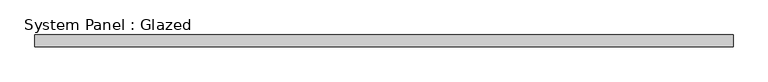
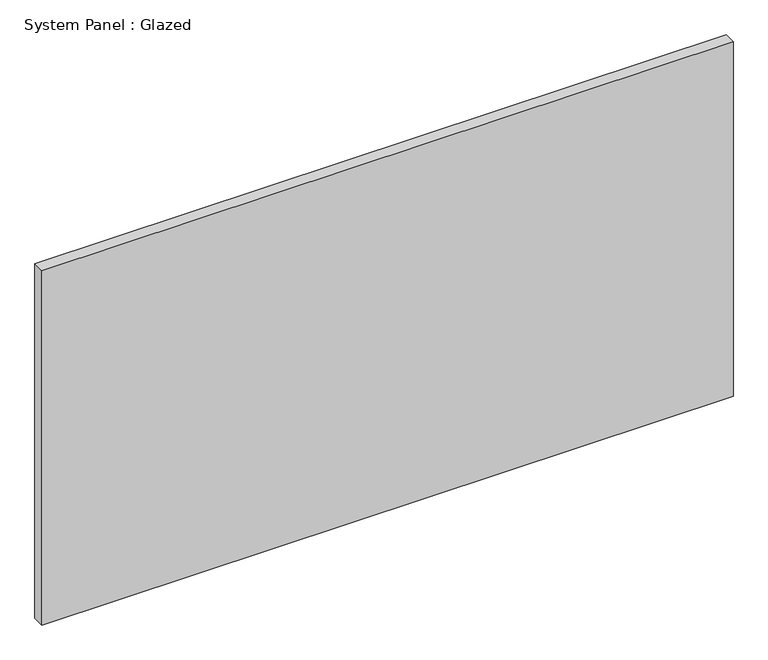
"""IFC4 building model written with IfcOpenShell, lengths in millimetres: plate geometry, System Panel : Glazed."""

from ifc_helpers import new_model, si_unit, origin, origin_with_axes, place, context, project, spatial, polyline, outline, extrude, source, transform, mapped, element, save


def system_panel_glazed_37b19665(model_context):
    return source(origin(), model_context, "Body", "SweptSolid", [
        extrude(outline(polyline([(728.90625, 24.5), (-728.90625, 24.5), (-728.90625, 49.5), (728.90625, 49.5), (728.90625, 24.5)])), origin_with_axes(), (0.0, 0.0, 1.0), 790.0),
    ])


if __name__ == "__main__":
    model = new_model("IFC4")
    model_context = context("Model", 3, world=origin())
    ifc_project = project(units=[si_unit("LENGTHUNIT", "METRE", prefix="MILLI")], contexts=[model_context])
    site = spatial("IfcSite", under=ifc_project)
    building = spatial("IfcBuilding", under=site)
    placement = place(None, origin())
    system_panel_glazed_shape = system_panel_glazed_37b19665(model_context)
    element("IfcPlate", 1, ObjectType="System Panel : Glazed", at=placement, inside=building, context=model_context, shape_type="MappedRepresentation", body=[
        mapped(system_panel_glazed_shape, transform((0.0, 0.0, 0.0), x_axis=(1.0, 0.0, 0.0), y_axis=(0.0, 1.0, 0.0), z_axis=(0.0, 0.0, 1.0))),
    ])
    save(model, "model.ifc")
